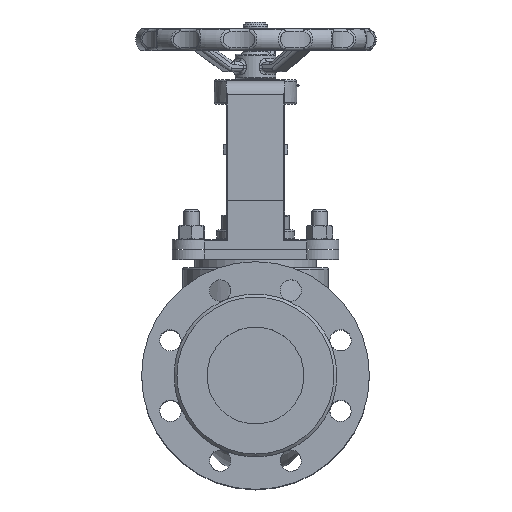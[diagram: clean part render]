
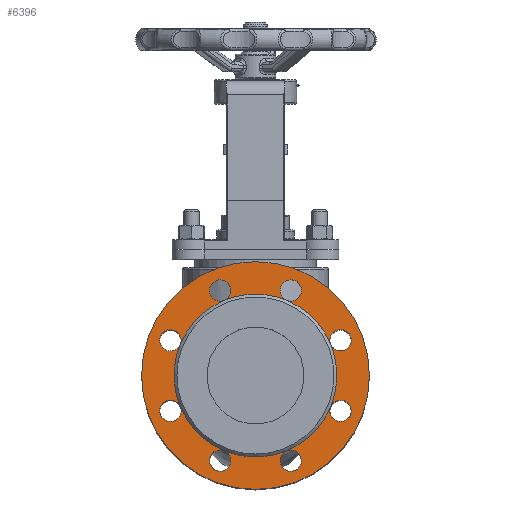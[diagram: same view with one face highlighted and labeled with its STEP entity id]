
A CAD part, top view. The second image highlights one B-rep face of the part: STEP entity #6396.
In plain terms, the highlighted planar face has unit normal (0, 0, 1).
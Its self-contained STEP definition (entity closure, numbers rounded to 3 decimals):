
#6396=ADVANCED_FACE('',(#14687,#14689,#14691,#14693,#14695,#14697,#14699,#14701,
#14703,#14705),#14707,.F.);
#14687=FACE_BOUND('',#14688,.T.);
#14688=EDGE_LOOP('',(#21715));
#14689=FACE_BOUND('',#14690,.T.);
#14690=EDGE_LOOP('',(#21716));
#14691=FACE_BOUND('',#14692,.T.);
#14692=EDGE_LOOP('',(#21717));
#14693=FACE_BOUND('',#14694,.T.);
#14694=EDGE_LOOP('',(#21718));
#14695=FACE_BOUND('',#14696,.T.);
#14696=EDGE_LOOP('',(#21719));
#14697=FACE_BOUND('',#14698,.T.);
#14698=EDGE_LOOP('',(#21720));
#14699=FACE_BOUND('',#14700,.T.);
#14700=EDGE_LOOP('',(#21721));
#14701=FACE_BOUND('',#14702,.T.);
#14702=EDGE_LOOP('',(#21722));
#14703=FACE_BOUND('',#14704,.T.);
#14704=EDGE_LOOP('',(#21723));
#14705=FACE_BOUND('',#14706,.T.);
#14706=EDGE_LOOP('',(#21724));
#14707=PLANE('',#14708);
#14708=AXIS2_PLACEMENT_3D('',#14709,#14710,#14711);
#14709=CARTESIAN_POINT('',(0.,0.,172.));
#14710=DIRECTION('',(0.,0.,-1.));
#14711=DIRECTION('',(0.,1.,0.));
#21715=ORIENTED_EDGE('',*,*,#24819,.T.);
#21716=ORIENTED_EDGE('',*,*,#25072,.F.);
#21717=ORIENTED_EDGE('',*,*,#24827,.T.);
#21718=ORIENTED_EDGE('',*,*,#24826,.T.);
#21719=ORIENTED_EDGE('',*,*,#24825,.T.);
#21720=ORIENTED_EDGE('',*,*,#24824,.T.);
#21721=ORIENTED_EDGE('',*,*,#24823,.T.);
#21722=ORIENTED_EDGE('',*,*,#24822,.T.);
#21723=ORIENTED_EDGE('',*,*,#24821,.T.);
#21724=ORIENTED_EDGE('',*,*,#24820,.T.);
#24819=EDGE_CURVE('',#28422,#28422,#28423,.T.);
#24820=EDGE_CURVE('',#28424,#28424,#28425,.T.);
#24821=EDGE_CURVE('',#28426,#28426,#28427,.T.);
#24822=EDGE_CURVE('',#28428,#28428,#28429,.T.);
#24823=EDGE_CURVE('',#28430,#28430,#28431,.T.);
#24824=EDGE_CURVE('',#28432,#28432,#28433,.T.);
#24825=EDGE_CURVE('',#28434,#28434,#28435,.T.);
#24826=EDGE_CURVE('',#28436,#28436,#28437,.T.);
#24827=EDGE_CURVE('',#28438,#28438,#28439,.T.);
#25072=EDGE_CURVE('',#28841,#28841,#28842,.T.);
#28422=VERTEX_POINT('',#59318);
#28423=CIRCLE('',#59319,117.5);
#28424=VERTEX_POINT('',#59323);
#28425=CIRCLE('',#59324,11.);
#28426=VERTEX_POINT('',#59328);
#28427=CIRCLE('',#59329,11.);
#28428=VERTEX_POINT('',#59333);
#28429=CIRCLE('',#59334,11.);
#28430=VERTEX_POINT('',#59338);
#28431=CIRCLE('',#59339,11.);
#28432=VERTEX_POINT('',#59343);
#28433=CIRCLE('',#59344,11.);
#28434=VERTEX_POINT('',#59348);
#28435=CIRCLE('',#59349,11.);
#28436=VERTEX_POINT('',#59353);
#28437=CIRCLE('',#59354,11.);
#28438=VERTEX_POINT('',#59358);
#28439=CIRCLE('',#59359,11.);
#28841=VERTEX_POINT('',#62352);
#28842=CIRCLE('',#62353,84.);
#59318=CARTESIAN_POINT('',(0.,117.5,172.));
#59319=AXIS2_PLACEMENT_3D('',#59320,#59321,#59322);
#59320=CARTESIAN_POINT('',(0.,0.,172.));
#59321=DIRECTION('',(0.,0.,1.));
#59322=DIRECTION('',(0.,1.,0.));
#59323=CARTESIAN_POINT('',(79.99,44.133,172.));
#59324=AXIS2_PLACEMENT_3D('',#59325,#59326,#59327);
#59325=CARTESIAN_POINT('',(87.769,36.355,172.));
#59326=DIRECTION('',(0.,0.,-1.));
#59327=DIRECTION('',(-0.707,0.707,0.));
#59328=CARTESIAN_POINT('',(44.133,-79.99,172.));
#59329=AXIS2_PLACEMENT_3D('',#59330,#59331,#59332);
#59330=CARTESIAN_POINT('',(36.355,-87.769,172.));
#59331=DIRECTION('',(0.,0.,-1.));
#59332=DIRECTION('',(0.707,0.707,0.));
#59333=CARTESIAN_POINT('',(-79.99,-44.133,172.));
#59334=AXIS2_PLACEMENT_3D('',#59335,#59336,#59337);
#59335=CARTESIAN_POINT('',(-87.769,-36.355,172.));
#59336=DIRECTION('',(0.,0.,-1.));
#59337=DIRECTION('',(0.707,-0.707,0.));
#59338=CARTESIAN_POINT('',(-44.133,79.99,172.));
#59339=AXIS2_PLACEMENT_3D('',#59340,#59341,#59342);
#59340=CARTESIAN_POINT('',(-36.355,87.769,172.));
#59341=DIRECTION('',(0.,0.,-1.));
#59342=DIRECTION('',(-0.707,-0.707,0.));
#59343=CARTESIAN_POINT('',(25.355,87.769,172.));
#59344=AXIS2_PLACEMENT_3D('',#59345,#59346,#59347);
#59345=CARTESIAN_POINT('',(36.355,87.769,172.));
#59346=DIRECTION('',(0.,0.,-1.));
#59347=DIRECTION('',(-1.,0.,0.));
#59348=CARTESIAN_POINT('',(-87.769,25.355,172.));
#59349=AXIS2_PLACEMENT_3D('',#59350,#59351,#59352);
#59350=CARTESIAN_POINT('',(-87.769,36.355,172.));
#59351=DIRECTION('',(0.,0.,-1.));
#59352=DIRECTION('',(0.,-1.,0.));
#59353=CARTESIAN_POINT('',(-25.355,-87.769,172.));
#59354=AXIS2_PLACEMENT_3D('',#59355,#59356,#59357);
#59355=CARTESIAN_POINT('',(-36.355,-87.769,172.));
#59356=DIRECTION('',(0.,0.,-1.));
#59357=DIRECTION('',(1.,0.,0.));
#59358=CARTESIAN_POINT('',(87.769,-25.355,172.));
#59359=AXIS2_PLACEMENT_3D('',#59360,#59361,#59362);
#59360=CARTESIAN_POINT('',(87.769,-36.355,172.));
#59361=DIRECTION('',(0.,0.,-1.));
#59362=DIRECTION('',(0.,1.,0.));
#62352=CARTESIAN_POINT('',(0.,84.,172.));
#62353=AXIS2_PLACEMENT_3D('',#62354,#62355,#62356);
#62354=CARTESIAN_POINT('',(0.,0.,172.));
#62355=DIRECTION('',(0.,0.,1.));
#62356=DIRECTION('',(0.,1.,0.));
